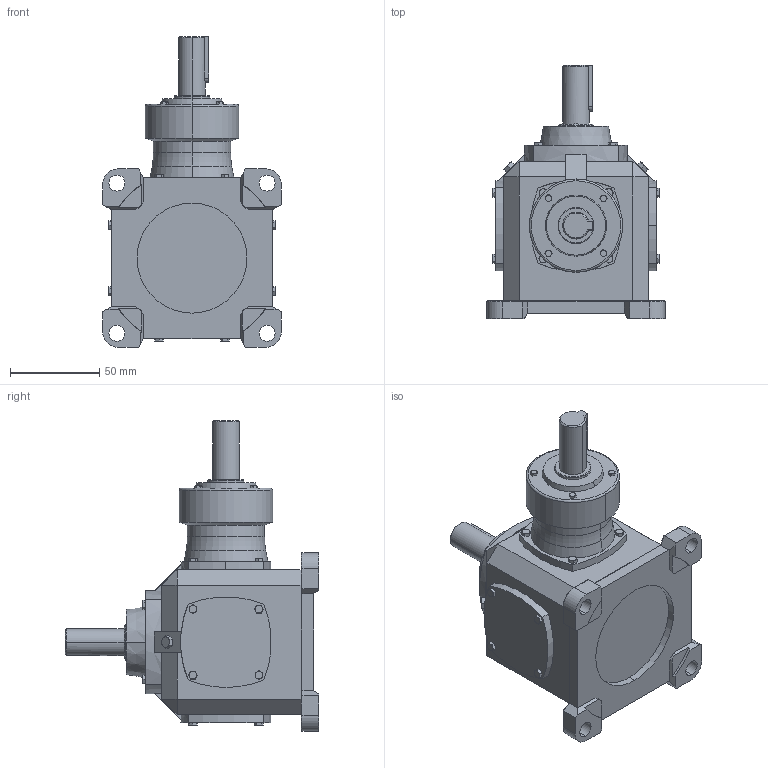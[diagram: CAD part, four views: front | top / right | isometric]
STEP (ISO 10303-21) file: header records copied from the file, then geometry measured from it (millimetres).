
FILE_DESCRIPTION (( 'STEP AP203' ), '1' );
FILE_NAME ('TC2-1-WSX1-H5.step', '2018-07-14T06:17:23', ( 'IT Division' ), ( 'IT' ), 'SwSTEP 2.0', 'SolidWorks 2016', '' );
FILE_SCHEMA (( 'CONFIG_CONTROL_DESIGN' ));
Length unit declared in the file: millimetre
Products named in the file (1): TC2-1-WSX1-H5
Bounding box: 100 x 142 x 174 mm (x, y, z)
Volume: 726483.8 mm3; surface area: 78737.3 mm2
Topology: 3 solids, 3 shells, 566 faces, 1346 edges, 820 vertices
Faces by surface type: plane 278, cone 193, cylinder 87, torus 8
Entity records: 16918 total; most frequent: CARTESIAN_POINT 4300, ORIENTED_EDGE 2692, DIRECTION 2470, EDGE_CURVE 1346, AXIS2_PLACEMENT_3D 918, VERTEX_POINT 820, VECTOR 634, LINE 634
